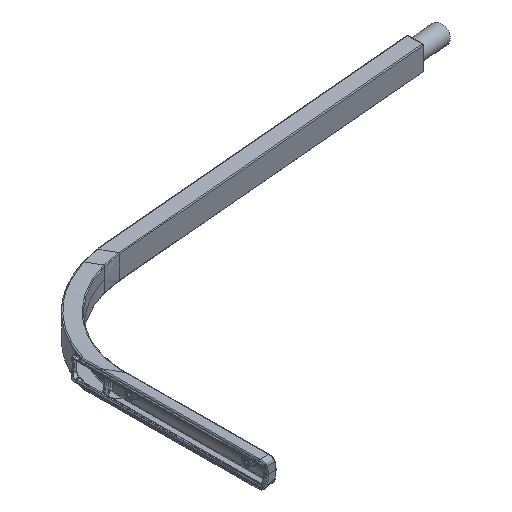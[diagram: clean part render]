
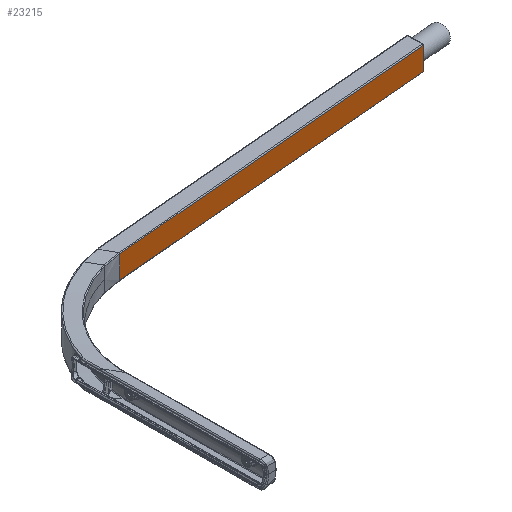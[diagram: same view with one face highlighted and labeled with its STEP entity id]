
A CAD part, isometric view. The second image highlights one B-rep face of the part: STEP entity #23215.
In plain terms, the highlighted planar face has unit normal (0.087, -0.996, 0).
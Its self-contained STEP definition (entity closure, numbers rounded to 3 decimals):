
#1075=DIRECTION('',(0.,0.,1.));
#1076=VECTOR('',#1075,74.347);
#1077=CARTESIAN_POINT('',(1497.011,1224.739,-37.173));
#1078=LINE('49936',#1077,#1076);
#6529=DIRECTION('',(-0.996,-0.087,0.));
#6530=VECTOR('',#6529,1089.084);
#6531=CARTESIAN_POINT('',(1497.011,1224.739,-37.173));
#6532=LINE('71163',#6531,#6530);
#6533=DIRECTION('',(-0.996,-0.087,0.));
#6534=VECTOR('',#6533,1089.084);
#6535=CARTESIAN_POINT('',(1497.011,1224.739,37.173));
#6536=LINE('71662',#6535,#6534);
#6656=DIRECTION('',(0.,0.,-1.));
#6657=VECTOR('',#6656,74.347);
#6658=CARTESIAN_POINT('',(412.072,1129.819,37.173));
#6659=LINE('63291',#6658,#6657);
#6817=CARTESIAN_POINT('',(1497.011,1224.739,-37.173));
#6819=VERTEX_POINT('',#6817);
#6829=CARTESIAN_POINT('',(1497.011,1224.739,37.173));
#6831=VERTEX_POINT('',#6829);
#6884=CARTESIAN_POINT('',(412.072,1129.819,-37.173));
#6885=VERTEX_POINT('',#6884);
#6965=CARTESIAN_POINT('',(412.072,1129.819,37.173));
#6966=VERTEX_POINT('',#6965);
#23202=CARTESIAN_POINT('',(1500.,1225.,0.));
#23203=DIRECTION('',(0.087,-0.996,0.));
#23204=DIRECTION('',(-0.996,-0.087,0.));
#23205=AXIS2_PLACEMENT_3D('',#23202,#23203,#23204);
#23206=PLANE('32909',#23205);
#23207=ORIENTED_EDGE('49936',*,*,#10155,.F.);
#23209=ORIENTED_EDGE('71163',*,*,#23208,.T.);
#23211=ORIENTED_EDGE('63291',*,*,#23210,.F.);
#23212=ORIENTED_EDGE('71662',*,*,#23194,.F.);
#23213=EDGE_LOOP('32909',(#23207,#23209,#23211,#23212));
#23214=FACE_OUTER_BOUND('32909',#23213,.F.);
#23215=ADVANCED_FACE('32909',(#23214),#23206,.T.);
#10155=EDGE_CURVE('49936',#6819,#6831,#1078,.T.);
#23194=EDGE_CURVE('71662',#6831,#6966,#6536,.T.);
#23208=EDGE_CURVE('71163',#6819,#6885,#6532,.T.);
#23210=EDGE_CURVE('63291',#6966,#6885,#6659,.T.);
